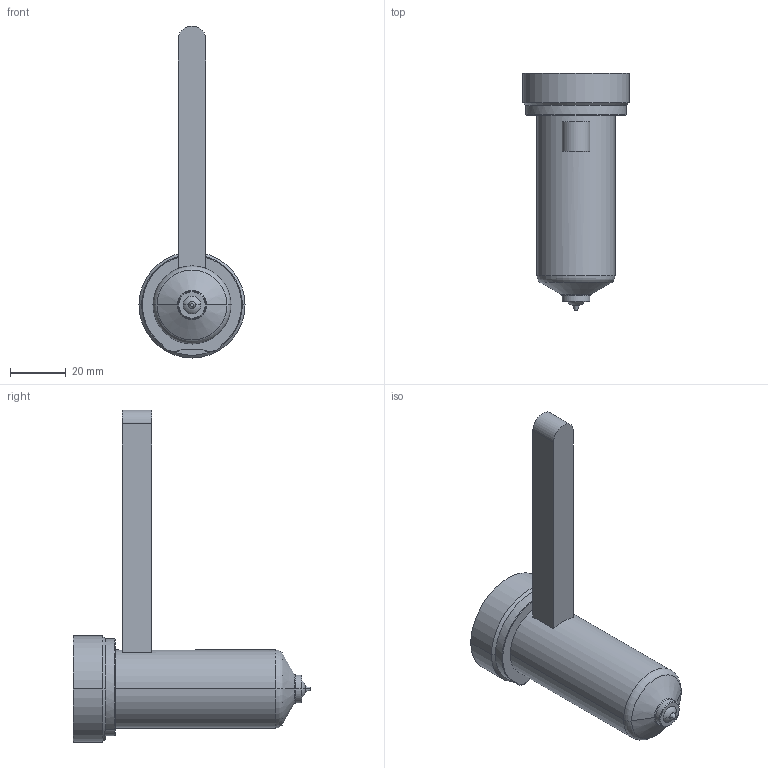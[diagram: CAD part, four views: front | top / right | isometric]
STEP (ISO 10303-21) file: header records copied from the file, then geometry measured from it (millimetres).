
FILE_DESCRIPTION((''),'2;1');
FILE_NAME('EO06_VG-BL_STD_070_COT','2024-02-19T13:00:01',('sundharh'),(''),'CREO PARAMETRIC BY PTC INC, 2023154','CREO PARAMETRIC BY PTC INC, 2023154','');
FILE_SCHEMA(('CONFIG_CONTROL_DESIGN'));
Length unit declared in the file: millimetre
Products named in the file (1): EO06_VG-BL_STD_070_COT
Bounding box: 38 x 85 x 119 mm (x, y, z)
Volume: 63670.5 mm3; surface area: 12788.6 mm2
Topology: 1 solids, 1 shells, 38 faces, 81 edges, 48 vertices
Faces by surface type: cylinder 11, plane 10, torus 9, cone 6, sphere 2
Entity records: 1147 total; most frequent: CARTESIAN_POINT 259, DIRECTION 199, ORIENTED_EDGE 162, AXIS2_PLACEMENT_3D 86, EDGE_CURVE 81, VERTEX_POINT 48, CIRCLE 48, EDGE_LOOP 41
